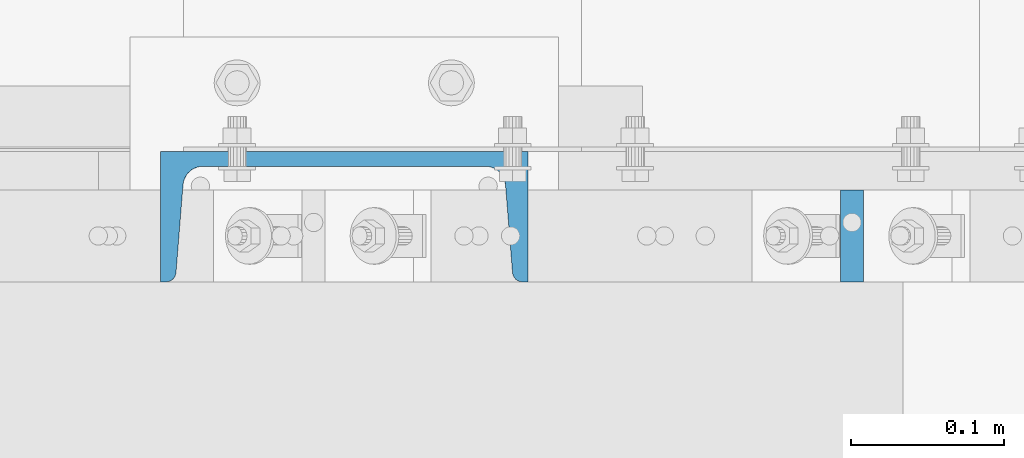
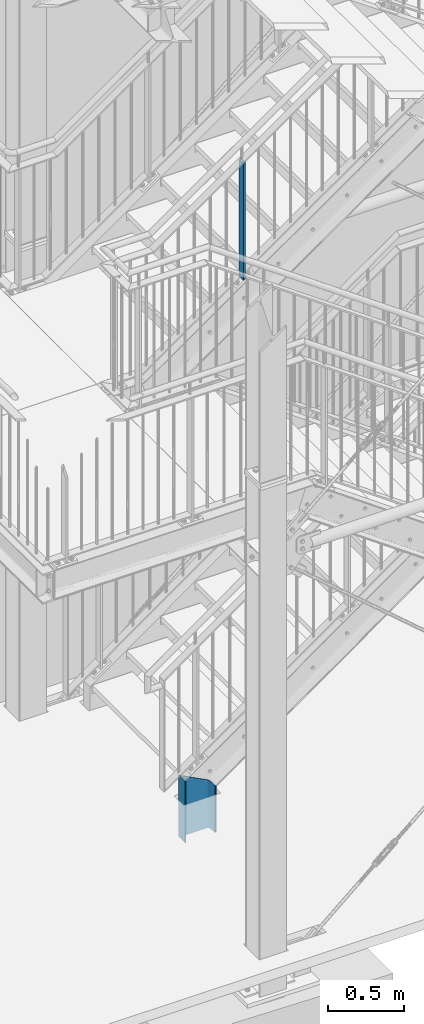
# One storey, part 43 of 831: 2 columns, 1 opening.
"""IFC2X3 building model written with IfcOpenShell, lengths in millimetres."""

from ifc_helpers import new_model, entity, si_unit, converted_unit, frame, frame_2d, origin, origin_with_axes, origin_2d, origin_2d_with_axis, place, context, project, spatial, rectangle, circle, u_section, extrude, clip, halfspace, material, element, save


model = new_model("IFC2X3")

# Units and contexts
model_context = context("Model", 3, precision=1e-09, world=origin_with_axes())
ifc_project = project(units=[si_unit("LENGTHUNIT", "METRE", prefix="MILLI"), si_unit("AREAUNIT", "SQUARE_METRE"), si_unit("VOLUMEUNIT", "CUBIC_METRE"), converted_unit("PLANEANGLEUNIT", "DEGREE", entity("IfcPlaneAngleMeasure", 0.01745329), si_unit("PLANEANGLEUNIT", "RADIAN"), dimensions=[0, 0, 0, 0, 0, 0, 0])], contexts=[model_context])

# Site, building, storey
site_placement = place(None, origin_with_axes())
site = spatial("IfcSite", under=ifc_project, at=site_placement, Name="Site", CompositionType="ELEMENT")
building_placement = place(site_placement, origin_with_axes())
building = spatial("IfcBuilding", under=site, at=building_placement, Name="Struktur 1", CompositionType="ELEMENT")
storey_placement = place(building_placement, origin_with_axes())
storey = spatial("IfcBuildingStorey", under=building, at=storey_placement, Name="Default Storey", CompositionType="ELEMENT", Elevation=0.0)

# Column
ifc_material = material(Name="S235JR")
column_1_placement = place(None, frame((5673.380236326, 6091.736971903, 5376.443920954), z_axis=(0.0, 0.0, 1.0), x_axis=(1.0, 0.0, 0.0)))
element("IfcColumn", 1, at=column_1_placement, inside=storey, material=ifc_material, Name="Railing_Post_Stair#1", ObjectType="Railing_Post_Stair#1", context=model_context, shape_type="Clipping", body=[
    clip(clip(extrude(rectangle(XDim=15.0, YDim=60.0, at=origin_2d()), origin(), (0.0, 0.0, -1.0), 1013.014378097), halfspace(frame((-5867.522989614, -6091.736971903, -5100.295000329), z_axis=(-0.575128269, 0.0, 0.818063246), x_axis=(0.0, -1.0, 0.0)), True)), halfspace(frame((-6308.566570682, -6091.736971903, -4472.954000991), z_axis=(0.575128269, 0.0, -0.818063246), x_axis=(0.0, 1.0, 0.0)), True)),
])

# Column, opening
column_2_placement = place(None, frame((5341.713402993, 6124.436971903, 735.471854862), z_axis=(0.0, 0.0, -1.0), x_axis=(0.0, -1.0, 0.0)))
column_2 = element("IfcColumn", 2, at=column_2_placement, inside=storey, material=ifc_material, Name="Stringer", ObjectType="Stringer", context=model_context, shape_type="Clipping", body=[
    clip(extrude(u_section(Depth=240.0, FlangeWidth=85.0, WebThickness=9.5, FlangeThickness=13.0, FilletRadius=13.0, EdgeRadius=6.5, FlangeSlope=4.574, at=frame_2d((20.2, 0.0))), origin(), (0.0, 0.0, 1.0), 685.471854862), halfspace(frame((6124.436971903, 4023.331766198, -1821.512085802), z_axis=(0.0, 0.458271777, 0.888812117), x_axis=(1.0, 0.0, 0.0)), True)),
])
opening_placement = place(column_2_placement, frame((-22.8, 70.0, 235.366592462), z_axis=(1.0, 0.0, 0.0), x_axis=(0.0, -1.0, 0.0)))
element("IfcOpeningElement", 3, at=opening_placement, cuts=column_2, ObjectType="Opening", context=model_context, shape_type="SweptSolid", body=[
    extrude(circle(Radius=7.001, at=origin_2d_with_axis()), origin(), (0.0, 0.0, 1.0), 10.5),
])

save(model, "model.ifc")
